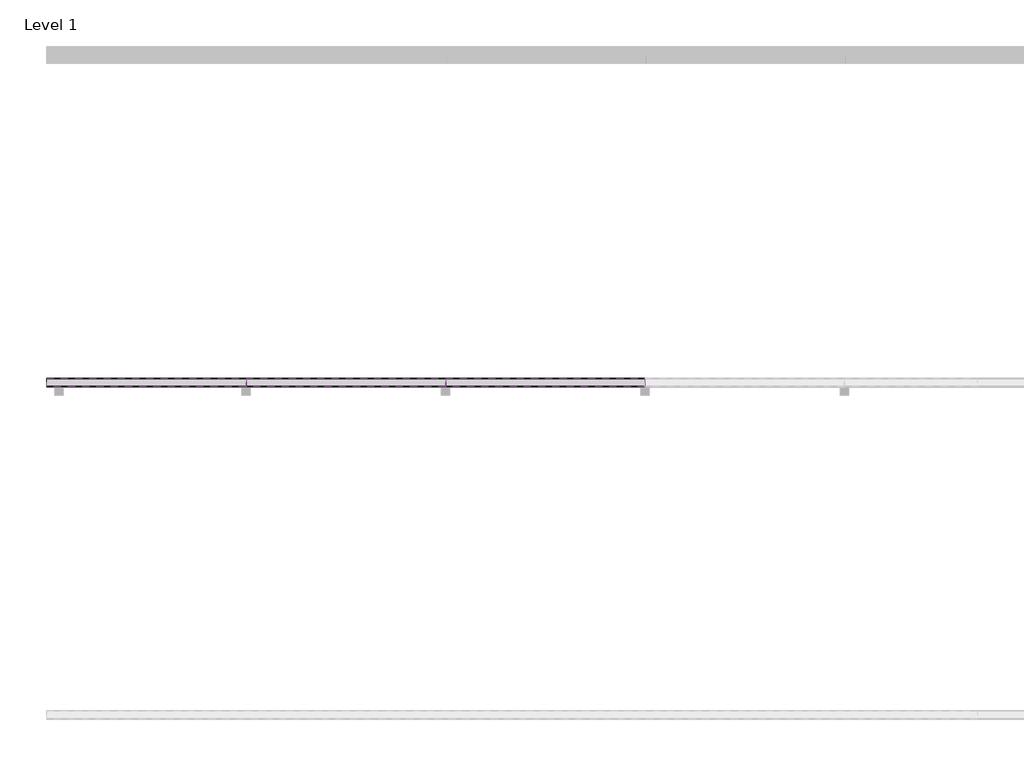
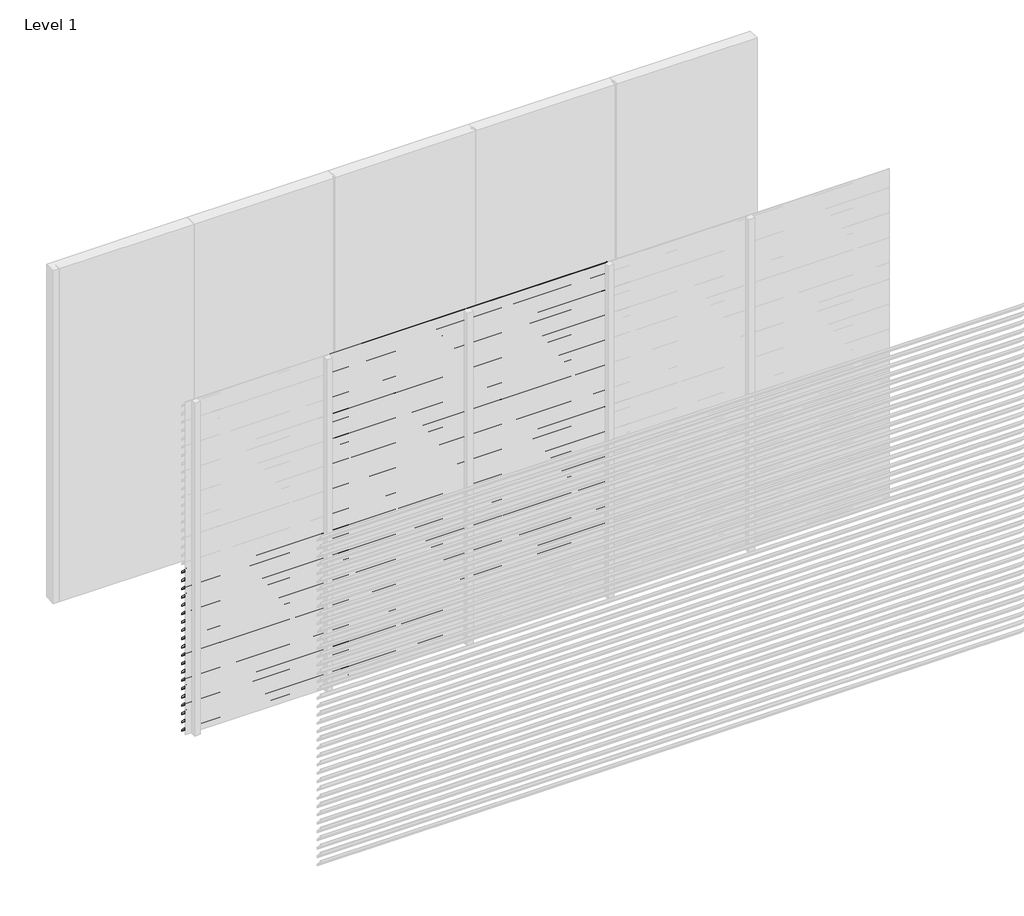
# One storey, part 5 of 11: 93 proxies.
"""IFC4 building model written with IfcOpenShell, lengths in millimetres."""

import ifcopenshell
import ifcopenshell.guid

model = None  # the IFC model being written
_history = None  # IfcOwnerHistory: only IFC2X3 demands one
_inside = {}  # id of a spatial element -> (the spatial element, [elements in it])
_under = {}  # id of a project, library or spatial element -> (it, [spatial elements below it])
_declared = {}  # id of a project -> (the project, [libraries it declares])
_typed = {}  # id of a type object -> (the type object, [elements of that type])
_made_of = {}  # id of a material, layer set ... -> (it, [elements and type objects made of it])


def new_model(schema):
    """Start an empty IFC model of exactly this schema.

    Asked for "IFC4X3", IfcOpenShell would pick the latest addendum, in which some entities
    have other attributes; the version numbers below select the first issue.
    IFC2X3 requires an IfcOwnerHistory on every rooted entity: one is made here for all.
    """
    global model, _history
    if schema == "IFC4X3":
        model = ifcopenshell.file(schema_version=(4, 3, 0, 0))
    else:
        model = ifcopenshell.file(schema=schema)
    _inside.clear()
    _under.clear()
    _declared.clear()
    _typed.clear()
    _made_of.clear()
    _history = None
    if model.schema == "IFC2X3":
        org = make("IfcOrganization", Name="unknown")
        user = make(
            "IfcPersonAndOrganization",
            ThePerson=make("IfcPerson", FamilyName="unknown"),
            TheOrganization=org,
        )
        app = make(
            "IfcApplication",
            ApplicationDeveloper=org,
            Version="unknown",
            ApplicationFullName="unknown",
            ApplicationIdentifier="unknown",
        )
        _history = make(
            "IfcOwnerHistory",
            OwningUser=user,
            OwningApplication=app,
            ChangeAction="ADDED",
            CreationDate=0,
        )
    return model


def make(cls, **values):
    """One entity of the class cls with the attributes given. An attribute that is None is left unset."""
    return model.create_entity(
        cls, **{name: value for name, value in values.items() if value is not None}
    )


def rooted(cls, **values):
    """An entity with a GlobalId (a new one), such as an element, a storey or a relation."""
    return make(cls, GlobalId=ifcopenshell.guid.new(), OwnerHistory=_history, **values)


def si_unit(unit_type, name, prefix=None):
    """IfcSIUnit, for example si_unit("LENGTHUNIT", "METRE", prefix="MILLI")."""
    return make("IfcSIUnit", UnitType=unit_type, Prefix=prefix, Name=name)


def assignment(units):
    """IfcUnitAssignment: the units of a project."""
    return None if units is None else make("IfcUnitAssignment", Units=units)


def point(xyz):
    """IfcCartesianPoint."""
    return None if xyz is None else make("IfcCartesianPoint", Coordinates=xyz)


def direction(xyz):
    """IfcDirection."""
    return None if xyz is None else make("IfcDirection", DirectionRatios=xyz)


def frame(location, z_axis=None, x_axis=None):
    """IfcAxis2Placement3D, a coordinate frame: its origin and axes. An axis left out is left unset."""
    return make(
        "IfcAxis2Placement3D",
        Location=point(location),
        Axis=direction(z_axis),
        RefDirection=direction(x_axis),
    )


def origin():
    """The frame at (0, 0, 0) with its axes left unset."""
    return frame((0.0, 0.0, 0.0))


def place(relative_to, where):
    """IfcLocalPlacement: puts the frame where relative to a parent placement (None: the world)."""
    return make(
        "IfcLocalPlacement", PlacementRelTo=relative_to, RelativePlacement=where
    )


def context(
    kind, dimensions, precision=None, world=None, true_north=None, identifier=None
):
    """IfcGeometricRepresentationContext, for example the 3D "Model" context."""
    return make(
        "IfcGeometricRepresentationContext",
        ContextIdentifier=identifier,
        ContextType=kind,
        CoordinateSpaceDimension=dimensions,
        Precision=precision,
        WorldCoordinateSystem=world,
        TrueNorth=true_north,
    )


def project(units=None, contexts=None):
    """IfcProject with its units and contexts."""
    return rooted(
        "IfcProject",
        Name="project",
        RepresentationContexts=contexts,
        UnitsInContext=assignment(units),
    )


def spatial(cls, under=None, at=None, **own):
    """A site, building, storey or space (cls), placed at a placement, below another one or the project."""
    s = rooted(cls, ObjectPlacement=at, **own)
    if under is not None:
        _under.setdefault(under.id(), (under, []))[1].append(s)
    return s


def polyline(points):
    """IfcPolyline through the points."""
    return make("IfcPolyline", Points=[point(p) for p in points])


def outline(outer, holes=None, kind="AREA"):
    """IfcArbitraryClosedProfileDef: a profile drawn as a closed curve; with holes, ...WithVoids."""
    if holes is None:
        return make("IfcArbitraryClosedProfileDef", ProfileType=kind, OuterCurve=outer)
    return make(
        "IfcArbitraryProfileDefWithVoids",
        ProfileType=kind,
        OuterCurve=outer,
        InnerCurves=holes,
    )


def extrude(swept, where, along, depth):
    """IfcExtrudedAreaSolid: the profile swept, set in the frame where, extruded along a direction by depth."""
    return make(
        "IfcExtrudedAreaSolid",
        SweptArea=swept,
        Position=where,
        ExtrudedDirection=direction(along),
        Depth=depth,
    )


def shape(context_of_items, identifier, shape_type, items):
    """IfcShapeRepresentation: the items that make up one representation, for example the "Body"."""
    return make(
        "IfcShapeRepresentation",
        ContextOfItems=context_of_items,
        RepresentationIdentifier=identifier,
        RepresentationType=shape_type,
        Items=items,
    )


def made_of(thing, what):
    """Note that an element or type object is made of a material, layer set ...; save() writes the relation."""
    if what is not None:
        _made_of.setdefault(what.id(), (what, []))[1].append(thing)
    return thing


def element(
    cls,
    number,
    at=None,
    inside=None,
    cuts=None,
    type_object=None,
    material=None,
    context=None,
    identifier="Body",
    shape_type=None,
    held_by="IfcProductDefinitionShape",
    body=None,
    shapes=None,
    **own,
):
    """One element of the class cls, such as IfcWall. Its Tag is "e" and its number.

    at: its placement. inside: the storey or other place that contains it. cuts: it is an
    opening in that element (IfcRelVoidsElement). A single representation is given by context,
    identifier, shape_type and body (its items); several are given by shapes. held_by: the class
    of the entity that holds the representations. save() writes the other relations.
    """
    e = rooted(cls, Tag="e%d" % number, ObjectPlacement=at, **own)
    if body is not None:
        shapes = [shape(context, identifier, shape_type, body)]
    if shapes is not None:
        e.Representation = make(held_by, Representations=shapes)
    if inside is not None:
        _inside.setdefault(inside.id(), (inside, []))[1].append(e)
    if cuts is not None:
        rooted(
            "IfcRelVoidsElement", RelatingBuildingElement=cuts, RelatedOpeningElement=e
        )
    if type_object is not None:
        _typed.setdefault(type_object.id(), (type_object, []))[1].append(e)
    return made_of(e, material)


def aggregate(whole, parts):
    """IfcRelAggregates: a whole, such as a stair, and the parts it consists of."""
    return rooted("IfcRelAggregates", RelatingObject=whole, RelatedObjects=parts)


def save(model, path):
    """Write the relations noted so far, then the file.

    IfcRelAggregates (storeys below a building ...), IfcRelContainedInSpatialStructure (elements
    in a storey), IfcRelDefinesByType, IfcRelAssociatesMaterial and IfcRelDeclares: one each for
    every whole, place, type object, material and project.
    """
    for whole, parts in _under.values():
        aggregate(whole, parts)
    for where, things in _inside.values():
        rooted(
            "IfcRelContainedInSpatialStructure",
            RelatedElements=things,
            RelatingStructure=where,
        )
    for kind, things in _typed.values():
        rooted("IfcRelDefinesByType", RelatedObjects=things, RelatingType=kind)
    for what, things in _made_of.values():
        rooted("IfcRelAssociatesMaterial", RelatedObjects=things, RelatingMaterial=what)
    for by, libraries in _declared.values():
        rooted("IfcRelDeclares", RelatingContext=by, RelatedDefinitions=libraries)
    model.write(path)


model = new_model("IFC4")

# Units and contexts
model_context = context("Model", 3, world=origin())
ifc_project = project(units=[si_unit("LENGTHUNIT", "METRE", prefix="MILLI")], contexts=[model_context])

# Site, building, storey
site = spatial("IfcSite", under=ifc_project)
building = spatial("IfcBuilding", under=site)
storey = spatial("IfcBuildingStorey", under=building, Name="Level 1", Elevation=0.0)

# Proxies
placement = place(None, origin())
element("IfcBuildingElementProxy", 1, Name="Wall Sweeps", at=placement, inside=storey, context=model_context, shape_type="SweptSolid", body=[
    extrude(outline(polyline([(-11995.0, 1500.0), (-11995.0, 1490.7409854), (-11946.0, 1440.0), (-11946.0, 1424.0), (-11997.0, 1476.812046), (-11997.0, 1500.0), (-11995.0, 1500.0)])), frame((0.0, 0.0, 0.0), z_axis=(1.0, 0.0, 0.0), x_axis=(0.0, 1.0, 0.0)), (0.0, 0.0, 1.0), 1200.0),
])
element("IfcBuildingElementProxy", 2, Name="Wall Sweeps", at=placement, inside=storey, context=model_context, shape_type="SweptSolid", body=[
    extrude(outline(polyline([(-11995.0, 1425.0), (-11995.0, 1415.7409854), (-11946.0, 1365.0), (-11946.0, 1349.0), (-11997.0, 1401.812046), (-11997.0, 1425.0), (-11995.0, 1425.0)])), frame((0.0, 0.0, 0.0), z_axis=(1.0, 0.0, 0.0), x_axis=(0.0, 1.0, 0.0)), (0.0, 0.0, 1.0), 1200.0),
])
element("IfcBuildingElementProxy", 3, Name="Wall Sweeps", at=placement, inside=storey, context=model_context, shape_type="SweptSolid", body=[
    extrude(outline(polyline([(-11995.0, 1350.0), (-11995.0, 1340.7409854), (-11946.0, 1290.0), (-11946.0, 1274.0), (-11997.0, 1326.812046), (-11997.0, 1350.0), (-11995.0, 1350.0)])), frame((0.0, 0.0, 0.0), z_axis=(1.0, 0.0, 0.0), x_axis=(0.0, 1.0, 0.0)), (0.0, 0.0, 1.0), 1200.0),
])
element("IfcBuildingElementProxy", 4, Name="Wall Sweeps", at=placement, inside=storey, context=model_context, shape_type="SweptSolid", body=[
    extrude(outline(polyline([(-11995.0, 1275.0), (-11995.0, 1265.7409854), (-11946.0, 1215.0), (-11946.0, 1199.0), (-11997.0, 1251.812046), (-11997.0, 1275.0), (-11995.0, 1275.0)])), frame((0.0, 0.0, 0.0), z_axis=(1.0, 0.0, 0.0), x_axis=(0.0, 1.0, 0.0)), (0.0, 0.0, 1.0), 1200.0),
])
element("IfcBuildingElementProxy", 5, Name="Wall Sweeps", at=placement, inside=storey, context=model_context, shape_type="SweptSolid", body=[
    extrude(outline(polyline([(-11995.0, 1200.0), (-11995.0, 1190.7409854), (-11946.0, 1140.0), (-11946.0, 1124.0), (-11997.0, 1176.812046), (-11997.0, 1200.0), (-11995.0, 1200.0)])), frame((0.0, 0.0, 0.0), z_axis=(1.0, 0.0, 0.0), x_axis=(0.0, 1.0, 0.0)), (0.0, 0.0, 1.0), 1200.0),
])
element("IfcBuildingElementProxy", 6, Name="Wall Sweeps", at=placement, inside=storey, context=model_context, shape_type="SweptSolid", body=[
    extrude(outline(polyline([(-11995.0, 1125.0), (-11995.0, 1115.7409854), (-11946.0, 1065.0), (-11946.0, 1049.0), (-11997.0, 1101.812046), (-11997.0, 1125.0), (-11995.0, 1125.0)])), frame((0.0, 0.0, 0.0), z_axis=(1.0, 0.0, 0.0), x_axis=(0.0, 1.0, 0.0)), (0.0, 0.0, 1.0), 1200.0),
])
element("IfcBuildingElementProxy", 7, Name="Wall Sweeps", at=placement, inside=storey, context=model_context, shape_type="SweptSolid", body=[
    extrude(outline(polyline([(-11995.0, 1050.0), (-11995.0, 1040.7409854), (-11946.0, 990.0), (-11946.0, 974.0), (-11997.0, 1026.812046), (-11997.0, 1050.0), (-11995.0, 1050.0)])), frame((0.0, 0.0, 0.0), z_axis=(1.0, 0.0, 0.0), x_axis=(0.0, 1.0, 0.0)), (0.0, 0.0, 1.0), 1200.0),
])
element("IfcBuildingElementProxy", 8, Name="Wall Sweeps", at=placement, inside=storey, context=model_context, shape_type="SweptSolid", body=[
    extrude(outline(polyline([(-11995.0, 975.0), (-11995.0, 965.7409854), (-11946.0, 915.0), (-11946.0, 899.0), (-11997.0, 951.812046), (-11997.0, 975.0), (-11995.0, 975.0)])), frame((0.0, 0.0, 0.0), z_axis=(1.0, 0.0, 0.0), x_axis=(0.0, 1.0, 0.0)), (0.0, 0.0, 1.0), 1200.0),
])
element("IfcBuildingElementProxy", 9, Name="Wall Sweeps", at=placement, inside=storey, context=model_context, shape_type="SweptSolid", body=[
    extrude(outline(polyline([(-11995.0, 900.0), (-11995.0, 890.7409854), (-11946.0, 840.0), (-11946.0, 824.0), (-11997.0, 876.812046), (-11997.0, 900.0), (-11995.0, 900.0)])), frame((0.0, 0.0, 0.0), z_axis=(1.0, 0.0, 0.0), x_axis=(0.0, 1.0, 0.0)), (0.0, 0.0, 1.0), 1200.0),
])
element("IfcBuildingElementProxy", 10, Name="Wall Sweeps", at=placement, inside=storey, context=model_context, shape_type="SweptSolid", body=[
    extrude(outline(polyline([(-11995.0, 825.0), (-11995.0, 815.7409854), (-11946.0, 765.0), (-11946.0, 749.0), (-11997.0, 801.812046), (-11997.0, 825.0), (-11995.0, 825.0)])), frame((0.0, 0.0, 0.0), z_axis=(1.0, 0.0, 0.0), x_axis=(0.0, 1.0, 0.0)), (0.0, 0.0, 1.0), 1200.0),
])
element("IfcBuildingElementProxy", 11, Name="Wall Sweeps", at=placement, inside=storey, context=model_context, shape_type="SweptSolid", body=[
    extrude(outline(polyline([(-11995.0, 750.0), (-11995.0, 740.7409854), (-11946.0, 690.0), (-11946.0, 674.0), (-11997.0, 726.812046), (-11997.0, 750.0), (-11995.0, 750.0)])), frame((0.0, 0.0, 0.0), z_axis=(1.0, 0.0, 0.0), x_axis=(0.0, 1.0, 0.0)), (0.0, 0.0, 1.0), 1200.0),
])
element("IfcBuildingElementProxy", 12, Name="Wall Sweeps", at=placement, inside=storey, context=model_context, shape_type="SweptSolid", body=[
    extrude(outline(polyline([(-11995.0, 675.0), (-11995.0, 665.7409854), (-11946.0, 615.0), (-11946.0, 599.0), (-11997.0, 651.812046), (-11997.0, 675.0), (-11995.0, 675.0)])), frame((0.0, 0.0, 0.0), z_axis=(1.0, 0.0, 0.0), x_axis=(0.0, 1.0, 0.0)), (0.0, 0.0, 1.0), 1200.0),
])
element("IfcBuildingElementProxy", 13, Name="Wall Sweeps", at=placement, inside=storey, context=model_context, shape_type="SweptSolid", body=[
    extrude(outline(polyline([(-11995.0, 600.0), (-11995.0, 590.7409854), (-11946.0, 540.0), (-11946.0, 524.0), (-11997.0, 576.812046), (-11997.0, 600.0), (-11995.0, 600.0)])), frame((0.0, 0.0, 0.0), z_axis=(1.0, 0.0, 0.0), x_axis=(0.0, 1.0, 0.0)), (0.0, 0.0, 1.0), 1200.0),
])
element("IfcBuildingElementProxy", 14, Name="Wall Sweeps", at=placement, inside=storey, context=model_context, shape_type="SweptSolid", body=[
    extrude(outline(polyline([(-11995.0, 525.0), (-11995.0, 515.7409854), (-11946.0, 465.0), (-11946.0, 449.0), (-11997.0, 501.812046), (-11997.0, 525.0), (-11995.0, 525.0)])), frame((0.0, 0.0, 0.0), z_axis=(1.0, 0.0, 0.0), x_axis=(0.0, 1.0, 0.0)), (0.0, 0.0, 1.0), 1200.0),
])
element("IfcBuildingElementProxy", 15, Name="Wall Sweeps", at=placement, inside=storey, context=model_context, shape_type="SweptSolid", body=[
    extrude(outline(polyline([(-11995.0, 450.0), (-11995.0, 440.7409854), (-11946.0, 390.0), (-11946.0, 374.0), (-11997.0, 426.812046), (-11997.0, 450.0), (-11995.0, 450.0)])), frame((0.0, 0.0, 0.0), z_axis=(1.0, 0.0, 0.0), x_axis=(0.0, 1.0, 0.0)), (0.0, 0.0, 1.0), 1200.0),
])
element("IfcBuildingElementProxy", 16, Name="Wall Sweeps", at=placement, inside=storey, context=model_context, shape_type="SweptSolid", body=[
    extrude(outline(polyline([(-11995.0, 375.0), (-11995.0, 365.7409854), (-11946.0, 315.0), (-11946.0, 299.0), (-11997.0, 351.812046), (-11997.0, 375.0), (-11995.0, 375.0)])), frame((0.0, 0.0, 0.0), z_axis=(1.0, 0.0, 0.0), x_axis=(0.0, 1.0, 0.0)), (0.0, 0.0, 1.0), 1200.0),
])
element("IfcBuildingElementProxy", 17, Name="Wall Sweeps", at=placement, inside=storey, context=model_context, shape_type="SweptSolid", body=[
    extrude(outline(polyline([(-11995.0, 300.0), (-11995.0, 290.7409854), (-11946.0, 240.0), (-11946.0, 224.0), (-11997.0, 276.812046), (-11997.0, 300.0), (-11995.0, 300.0)])), frame((0.0, 0.0, 0.0), z_axis=(1.0, 0.0, 0.0), x_axis=(0.0, 1.0, 0.0)), (0.0, 0.0, 1.0), 1200.0),
])
element("IfcBuildingElementProxy", 18, Name="Wall Sweeps", at=placement, inside=storey, context=model_context, shape_type="SweptSolid", body=[
    extrude(outline(polyline([(-11995.0, 225.0), (-11995.0, 215.7409854), (-11946.0, 165.0), (-11946.0, 149.0), (-11997.0, 201.812046), (-11997.0, 225.0), (-11995.0, 225.0)])), frame((0.0, 0.0, 0.0), z_axis=(1.0, 0.0, 0.0), x_axis=(0.0, 1.0, 0.0)), (0.0, 0.0, 1.0), 1200.0),
])
element("IfcBuildingElementProxy", 19, Name="Wall Sweeps", at=placement, inside=storey, context=model_context, shape_type="SweptSolid", body=[
    extrude(outline(polyline([(-11995.0, 150.0), (-11995.0, 140.7409854), (-11946.0, 90.0), (-11946.0, 74.0), (-11997.0, 126.812046), (-11997.0, 150.0), (-11995.0, 150.0)])), frame((0.0, 0.0, 0.0), z_axis=(1.0, 0.0, 0.0), x_axis=(0.0, 1.0, 0.0)), (0.0, 0.0, 1.0), 1200.0),
])
element("IfcBuildingElementProxy", 20, Name="Wall Sweeps", at=placement, inside=storey, context=model_context, shape_type="SweptSolid", body=[
    extrude(outline(polyline([(-11995.0, 75.0), (-11995.0, 65.7409854), (-11946.0, 15.0), (-11946.0, -1.0), (-11997.0, 51.812046), (-11997.0, 75.0), (-11995.0, 75.0)])), frame((0.0, 0.0, 0.0), z_axis=(1.0, 0.0, 0.0), x_axis=(0.0, 1.0, 0.0)), (0.0, 0.0, 1.0), 1200.0),
])
element("IfcBuildingElementProxy", 21, Name="Wall Sweeps", at=placement, inside=storey, context=model_context, shape_type="SweptSolid", body=[
    extrude(outline(polyline([(-11995.0, 3000.0), (-11995.0, 2990.7409854), (-11946.0, 2940.0), (-11946.0, 2924.0), (-11997.0, 2976.812046), (-11997.0, 3000.0), (-11995.0, 3000.0)])), frame((1200.0, 0.0, 0.0), z_axis=(1.0, 0.0, 0.0), x_axis=(0.0, 1.0, 0.0)), (0.0, 0.0, 1.0), 1200.0),
])
element("IfcBuildingElementProxy", 22, Name="Wall Sweeps", at=placement, inside=storey, context=model_context, shape_type="SweptSolid", body=[
    extrude(outline(polyline([(-11995.0, 2925.0), (-11995.0, 2915.7409854), (-11946.0, 2865.0), (-11946.0, 2849.0), (-11997.0, 2901.812046), (-11997.0, 2925.0), (-11995.0, 2925.0)])), frame((1200.0, 0.0, 0.0), z_axis=(1.0, 0.0, 0.0), x_axis=(0.0, 1.0, 0.0)), (0.0, 0.0, 1.0), 1200.0),
])
element("IfcBuildingElementProxy", 23, Name="Wall Sweeps", at=placement, inside=storey, context=model_context, shape_type="SweptSolid", body=[
    extrude(outline(polyline([(-11995.0, 2850.0), (-11995.0, 2840.7409854), (-11946.0, 2790.0), (-11946.0, 2774.0), (-11997.0, 2826.812046), (-11997.0, 2850.0), (-11995.0, 2850.0)])), frame((1200.0, 0.0, 0.0), z_axis=(1.0, 0.0, 0.0), x_axis=(0.0, 1.0, 0.0)), (0.0, 0.0, 1.0), 1200.0),
])
element("IfcBuildingElementProxy", 24, Name="Wall Sweeps", at=placement, inside=storey, context=model_context, shape_type="SweptSolid", body=[
    extrude(outline(polyline([(-11995.0, 2775.0), (-11995.0, 2765.7409854), (-11946.0, 2715.0), (-11946.0, 2699.0), (-11997.0, 2751.812046), (-11997.0, 2775.0), (-11995.0, 2775.0)])), frame((1200.0, 0.0, 0.0), z_axis=(1.0, 0.0, 0.0), x_axis=(0.0, 1.0, 0.0)), (0.0, 0.0, 1.0), 1200.0),
])
element("IfcBuildingElementProxy", 25, Name="Wall Sweeps", at=placement, inside=storey, context=model_context, shape_type="SweptSolid", body=[
    extrude(outline(polyline([(-11995.0, 2700.0), (-11995.0, 2690.7409854), (-11946.0, 2640.0), (-11946.0, 2624.0), (-11997.0, 2676.812046), (-11997.0, 2700.0), (-11995.0, 2700.0)])), frame((1200.0, 0.0, 0.0), z_axis=(1.0, 0.0, 0.0), x_axis=(0.0, 1.0, 0.0)), (0.0, 0.0, 1.0), 1200.0),
])
element("IfcBuildingElementProxy", 26, Name="Wall Sweeps", at=placement, inside=storey, context=model_context, shape_type="SweptSolid", body=[
    extrude(outline(polyline([(-11995.0, 2625.0), (-11995.0, 2615.7409854), (-11946.0, 2565.0), (-11946.0, 2549.0), (-11997.0, 2601.812046), (-11997.0, 2625.0), (-11995.0, 2625.0)])), frame((1200.0, 0.0, 0.0), z_axis=(1.0, 0.0, 0.0), x_axis=(0.0, 1.0, 0.0)), (0.0, 0.0, 1.0), 1200.0),
])
element("IfcBuildingElementProxy", 27, Name="Wall Sweeps", at=placement, inside=storey, context=model_context, shape_type="SweptSolid", body=[
    extrude(outline(polyline([(-11995.0, 2550.0), (-11995.0, 2540.7409854), (-11946.0, 2490.0), (-11946.0, 2474.0), (-11997.0, 2526.812046), (-11997.0, 2550.0), (-11995.0, 2550.0)])), frame((1200.0, 0.0, 0.0), z_axis=(1.0, 0.0, 0.0), x_axis=(0.0, 1.0, 0.0)), (0.0, 0.0, 1.0), 1200.0),
])
element("IfcBuildingElementProxy", 28, Name="Wall Sweeps", at=placement, inside=storey, context=model_context, shape_type="SweptSolid", body=[
    extrude(outline(polyline([(-11995.0, 2475.0), (-11995.0, 2465.7409854), (-11946.0, 2415.0), (-11946.0, 2399.0), (-11997.0, 2451.812046), (-11997.0, 2475.0), (-11995.0, 2475.0)])), frame((1200.0, 0.0, 0.0), z_axis=(1.0, 0.0, 0.0), x_axis=(0.0, 1.0, 0.0)), (0.0, 0.0, 1.0), 1200.0),
])
element("IfcBuildingElementProxy", 29, Name="Wall Sweeps", at=placement, inside=storey, context=model_context, shape_type="SweptSolid", body=[
    extrude(outline(polyline([(-11995.0, 2400.0), (-11995.0, 2390.7409854), (-11946.0, 2340.0), (-11946.0, 2324.0), (-11997.0, 2376.812046), (-11997.0, 2400.0), (-11995.0, 2400.0)])), frame((1200.0, 0.0, 0.0), z_axis=(1.0, 0.0, 0.0), x_axis=(0.0, 1.0, 0.0)), (0.0, 0.0, 1.0), 1200.0),
])
element("IfcBuildingElementProxy", 30, Name="Wall Sweeps", at=placement, inside=storey, context=model_context, shape_type="SweptSolid", body=[
    extrude(outline(polyline([(-11995.0, 2325.0), (-11995.0, 2315.7409854), (-11946.0, 2265.0), (-11946.0, 2249.0), (-11997.0, 2301.812046), (-11997.0, 2325.0), (-11995.0, 2325.0)])), frame((1200.0, 0.0, 0.0), z_axis=(1.0, 0.0, 0.0), x_axis=(0.0, 1.0, 0.0)), (0.0, 0.0, 1.0), 1200.0),
])
element("IfcBuildingElementProxy", 31, Name="Wall Sweeps", at=placement, inside=storey, context=model_context, shape_type="SweptSolid", body=[
    extrude(outline(polyline([(-11995.0, 2250.0), (-11995.0, 2240.7409854), (-11946.0, 2190.0), (-11946.0, 2174.0), (-11997.0, 2226.812046), (-11997.0, 2250.0), (-11995.0, 2250.0)])), frame((1200.0, 0.0, 0.0), z_axis=(1.0, 0.0, 0.0), x_axis=(0.0, 1.0, 0.0)), (0.0, 0.0, 1.0), 1200.0),
])
element("IfcBuildingElementProxy", 32, Name="Wall Sweeps", at=placement, inside=storey, context=model_context, shape_type="SweptSolid", body=[
    extrude(outline(polyline([(-11995.0, 2175.0), (-11995.0, 2165.7409854), (-11946.0, 2115.0), (-11946.0, 2099.0), (-11997.0, 2151.812046), (-11997.0, 2175.0), (-11995.0, 2175.0)])), frame((1200.0, 0.0, 0.0), z_axis=(1.0, 0.0, 0.0), x_axis=(0.0, 1.0, 0.0)), (0.0, 0.0, 1.0), 1200.0),
])
element("IfcBuildingElementProxy", 33, Name="Wall Sweeps", at=placement, inside=storey, context=model_context, shape_type="SweptSolid", body=[
    extrude(outline(polyline([(-11995.0, 2100.0), (-11995.0, 2090.7409854), (-11946.0, 2040.0), (-11946.0, 2024.0), (-11997.0, 2076.812046), (-11997.0, 2100.0), (-11995.0, 2100.0)])), frame((1200.0, 0.0, 0.0), z_axis=(1.0, 0.0, 0.0), x_axis=(0.0, 1.0, 0.0)), (0.0, 0.0, 1.0), 1200.0),
])
element("IfcBuildingElementProxy", 34, Name="Wall Sweeps", at=placement, inside=storey, context=model_context, shape_type="SweptSolid", body=[
    extrude(outline(polyline([(-11995.0, 2025.0), (-11995.0, 2015.7409854), (-11946.0, 1965.0), (-11946.0, 1949.0), (-11997.0, 2001.812046), (-11997.0, 2025.0), (-11995.0, 2025.0)])), frame((1200.0, 0.0, 0.0), z_axis=(1.0, 0.0, 0.0), x_axis=(0.0, 1.0, 0.0)), (0.0, 0.0, 1.0), 1200.0),
])
element("IfcBuildingElementProxy", 35, Name="Wall Sweeps", at=placement, inside=storey, context=model_context, shape_type="SweptSolid", body=[
    extrude(outline(polyline([(-11995.0, 1950.0), (-11995.0, 1940.7409854), (-11946.0, 1890.0), (-11946.0, 1874.0), (-11997.0, 1926.812046), (-11997.0, 1950.0), (-11995.0, 1950.0)])), frame((1200.0, 0.0, 0.0), z_axis=(1.0, 0.0, 0.0), x_axis=(0.0, 1.0, 0.0)), (0.0, 0.0, 1.0), 1200.0),
])
element("IfcBuildingElementProxy", 36, Name="Wall Sweeps", at=placement, inside=storey, context=model_context, shape_type="SweptSolid", body=[
    extrude(outline(polyline([(-11995.0, 1875.0), (-11995.0, 1865.7409854), (-11946.0, 1815.0), (-11946.0, 1799.0), (-11997.0, 1851.812046), (-11997.0, 1875.0), (-11995.0, 1875.0)])), frame((1200.0, 0.0, 0.0), z_axis=(1.0, 0.0, 0.0), x_axis=(0.0, 1.0, 0.0)), (0.0, 0.0, 1.0), 1200.0),
])
element("IfcBuildingElementProxy", 37, Name="Wall Sweeps", at=placement, inside=storey, context=model_context, shape_type="SweptSolid", body=[
    extrude(outline(polyline([(-11995.0, 1800.0), (-11995.0, 1790.7409854), (-11946.0, 1740.0), (-11946.0, 1724.0), (-11997.0, 1776.812046), (-11997.0, 1800.0), (-11995.0, 1800.0)])), frame((1200.0, 0.0, 0.0), z_axis=(1.0, 0.0, 0.0), x_axis=(0.0, 1.0, 0.0)), (0.0, 0.0, 1.0), 1200.0),
])
element("IfcBuildingElementProxy", 38, Name="Wall Sweeps", at=placement, inside=storey, context=model_context, shape_type="SweptSolid", body=[
    extrude(outline(polyline([(-11995.0, 1725.0), (-11995.0, 1715.7409854), (-11946.0, 1665.0), (-11946.0, 1649.0), (-11997.0, 1701.812046), (-11997.0, 1725.0), (-11995.0, 1725.0)])), frame((1200.0, 0.0, 0.0), z_axis=(1.0, 0.0, 0.0), x_axis=(0.0, 1.0, 0.0)), (0.0, 0.0, 1.0), 1200.0),
])
element("IfcBuildingElementProxy", 39, Name="Wall Sweeps", at=placement, inside=storey, context=model_context, shape_type="SweptSolid", body=[
    extrude(outline(polyline([(-11995.0, 1650.0), (-11995.0, 1640.7409854), (-11946.0, 1590.0), (-11946.0, 1574.0), (-11997.0, 1626.812046), (-11997.0, 1650.0), (-11995.0, 1650.0)])), frame((1200.0, 0.0, 0.0), z_axis=(1.0, 0.0, 0.0), x_axis=(0.0, 1.0, 0.0)), (0.0, 0.0, 1.0), 1200.0),
])
element("IfcBuildingElementProxy", 40, Name="Wall Sweeps", at=placement, inside=storey, context=model_context, shape_type="SweptSolid", body=[
    extrude(outline(polyline([(-11995.0, 1575.0), (-11995.0, 1565.7409854), (-11946.0, 1515.0), (-11946.0, 1499.0), (-11997.0, 1551.812046), (-11997.0, 1575.0), (-11995.0, 1575.0)])), frame((1200.0, 0.0, 0.0), z_axis=(1.0, 0.0, 0.0), x_axis=(0.0, 1.0, 0.0)), (0.0, 0.0, 1.0), 1200.0),
])
element("IfcBuildingElementProxy", 41, Name="Wall Sweeps", at=placement, inside=storey, context=model_context, shape_type="SweptSolid", body=[
    extrude(outline(polyline([(-11995.0, 1500.0), (-11995.0, 1490.7409854), (-11946.0, 1440.0), (-11946.0, 1424.0), (-11997.0, 1476.812046), (-11997.0, 1500.0), (-11995.0, 1500.0)])), frame((1200.0, 0.0, 0.0), z_axis=(1.0, 0.0, 0.0), x_axis=(0.0, 1.0, 0.0)), (0.0, 0.0, 1.0), 1200.0),
])
element("IfcBuildingElementProxy", 42, Name="Wall Sweeps", at=placement, inside=storey, context=model_context, shape_type="SweptSolid", body=[
    extrude(outline(polyline([(-11995.0, 1425.0), (-11995.0, 1415.7409854), (-11946.0, 1365.0), (-11946.0, 1349.0), (-11997.0, 1401.812046), (-11997.0, 1425.0), (-11995.0, 1425.0)])), frame((1200.0, 0.0, 0.0), z_axis=(1.0, 0.0, 0.0), x_axis=(0.0, 1.0, 0.0)), (0.0, 0.0, 1.0), 1200.0),
])
element("IfcBuildingElementProxy", 43, Name="Wall Sweeps", at=placement, inside=storey, context=model_context, shape_type="SweptSolid", body=[
    extrude(outline(polyline([(-11995.0, 1350.0), (-11995.0, 1340.7409854), (-11946.0, 1290.0), (-11946.0, 1274.0), (-11997.0, 1326.812046), (-11997.0, 1350.0), (-11995.0, 1350.0)])), frame((1200.0, 0.0, 0.0), z_axis=(1.0, 0.0, 0.0), x_axis=(0.0, 1.0, 0.0)), (0.0, 0.0, 1.0), 1200.0),
])
element("IfcBuildingElementProxy", 44, Name="Wall Sweeps", at=placement, inside=storey, context=model_context, shape_type="SweptSolid", body=[
    extrude(outline(polyline([(-11995.0, 1275.0), (-11995.0, 1265.7409854), (-11946.0, 1215.0), (-11946.0, 1199.0), (-11997.0, 1251.812046), (-11997.0, 1275.0), (-11995.0, 1275.0)])), frame((1200.0, 0.0, 0.0), z_axis=(1.0, 0.0, 0.0), x_axis=(0.0, 1.0, 0.0)), (0.0, 0.0, 1.0), 1200.0),
])
element("IfcBuildingElementProxy", 45, Name="Wall Sweeps", at=placement, inside=storey, context=model_context, shape_type="SweptSolid", body=[
    extrude(outline(polyline([(-11995.0, 1200.0), (-11995.0, 1190.7409854), (-11946.0, 1140.0), (-11946.0, 1124.0), (-11997.0, 1176.812046), (-11997.0, 1200.0), (-11995.0, 1200.0)])), frame((1200.0, 0.0, 0.0), z_axis=(1.0, 0.0, 0.0), x_axis=(0.0, 1.0, 0.0)), (0.0, 0.0, 1.0), 1200.0),
])
element("IfcBuildingElementProxy", 46, Name="Wall Sweeps", at=placement, inside=storey, context=model_context, shape_type="SweptSolid", body=[
    extrude(outline(polyline([(-11995.0, 1125.0), (-11995.0, 1115.7409854), (-11946.0, 1065.0), (-11946.0, 1049.0), (-11997.0, 1101.812046), (-11997.0, 1125.0), (-11995.0, 1125.0)])), frame((1200.0, 0.0, 0.0), z_axis=(1.0, 0.0, 0.0), x_axis=(0.0, 1.0, 0.0)), (0.0, 0.0, 1.0), 1200.0),
])
element("IfcBuildingElementProxy", 47, Name="Wall Sweeps", at=placement, inside=storey, context=model_context, shape_type="SweptSolid", body=[
    extrude(outline(polyline([(-11995.0, 1050.0), (-11995.0, 1040.7409854), (-11946.0, 990.0), (-11946.0, 974.0), (-11997.0, 1026.812046), (-11997.0, 1050.0), (-11995.0, 1050.0)])), frame((1200.0, 0.0, 0.0), z_axis=(1.0, 0.0, 0.0), x_axis=(0.0, 1.0, 0.0)), (0.0, 0.0, 1.0), 1200.0),
])
element("IfcBuildingElementProxy", 48, Name="Wall Sweeps", at=placement, inside=storey, context=model_context, shape_type="SweptSolid", body=[
    extrude(outline(polyline([(-11995.0, 975.0), (-11995.0, 965.7409854), (-11946.0, 915.0), (-11946.0, 899.0), (-11997.0, 951.812046), (-11997.0, 975.0), (-11995.0, 975.0)])), frame((1200.0, 0.0, 0.0), z_axis=(1.0, 0.0, 0.0), x_axis=(0.0, 1.0, 0.0)), (0.0, 0.0, 1.0), 1200.0),
])
element("IfcBuildingElementProxy", 49, Name="Wall Sweeps", at=placement, inside=storey, context=model_context, shape_type="SweptSolid", body=[
    extrude(outline(polyline([(-11995.0, 900.0), (-11995.0, 890.7409854), (-11946.0, 840.0), (-11946.0, 824.0), (-11997.0, 876.812046), (-11997.0, 900.0), (-11995.0, 900.0)])), frame((1200.0, 0.0, 0.0), z_axis=(1.0, 0.0, 0.0), x_axis=(0.0, 1.0, 0.0)), (0.0, 0.0, 1.0), 1200.0),
])
element("IfcBuildingElementProxy", 50, Name="Wall Sweeps", at=placement, inside=storey, context=model_context, shape_type="SweptSolid", body=[
    extrude(outline(polyline([(-11995.0, 825.0), (-11995.0, 815.7409854), (-11946.0, 765.0), (-11946.0, 749.0), (-11997.0, 801.812046), (-11997.0, 825.0), (-11995.0, 825.0)])), frame((1200.0, 0.0, 0.0), z_axis=(1.0, 0.0, 0.0), x_axis=(0.0, 1.0, 0.0)), (0.0, 0.0, 1.0), 1200.0),
])
element("IfcBuildingElementProxy", 51, Name="Wall Sweeps", at=placement, inside=storey, context=model_context, shape_type="SweptSolid", body=[
    extrude(outline(polyline([(-11995.0, 750.0), (-11995.0, 740.7409854), (-11946.0, 690.0), (-11946.0, 674.0), (-11997.0, 726.812046), (-11997.0, 750.0), (-11995.0, 750.0)])), frame((1200.0, 0.0, 0.0), z_axis=(1.0, 0.0, 0.0), x_axis=(0.0, 1.0, 0.0)), (0.0, 0.0, 1.0), 1200.0),
])
element("IfcBuildingElementProxy", 52, Name="Wall Sweeps", at=placement, inside=storey, context=model_context, shape_type="SweptSolid", body=[
    extrude(outline(polyline([(-11995.0, 675.0), (-11995.0, 665.7409854), (-11946.0, 615.0), (-11946.0, 599.0), (-11997.0, 651.812046), (-11997.0, 675.0), (-11995.0, 675.0)])), frame((1200.0, 0.0, 0.0), z_axis=(1.0, 0.0, 0.0), x_axis=(0.0, 1.0, 0.0)), (0.0, 0.0, 1.0), 1200.0),
])
element("IfcBuildingElementProxy", 53, Name="Wall Sweeps", at=placement, inside=storey, context=model_context, shape_type="SweptSolid", body=[
    extrude(outline(polyline([(-11995.0, 600.0), (-11995.0, 590.7409854), (-11946.0, 540.0), (-11946.0, 524.0), (-11997.0, 576.812046), (-11997.0, 600.0), (-11995.0, 600.0)])), frame((1200.0, 0.0, 0.0), z_axis=(1.0, 0.0, 0.0), x_axis=(0.0, 1.0, 0.0)), (0.0, 0.0, 1.0), 1200.0),
])
element("IfcBuildingElementProxy", 54, Name="Wall Sweeps", at=placement, inside=storey, context=model_context, shape_type="SweptSolid", body=[
    extrude(outline(polyline([(-11995.0, 525.0), (-11995.0, 515.7409854), (-11946.0, 465.0), (-11946.0, 449.0), (-11997.0, 501.812046), (-11997.0, 525.0), (-11995.0, 525.0)])), frame((1200.0, 0.0, 0.0), z_axis=(1.0, 0.0, 0.0), x_axis=(0.0, 1.0, 0.0)), (0.0, 0.0, 1.0), 1200.0),
])
element("IfcBuildingElementProxy", 55, Name="Wall Sweeps", at=placement, inside=storey, context=model_context, shape_type="SweptSolid", body=[
    extrude(outline(polyline([(-11995.0, 450.0), (-11995.0, 440.7409854), (-11946.0, 390.0), (-11946.0, 374.0), (-11997.0, 426.812046), (-11997.0, 450.0), (-11995.0, 450.0)])), frame((1200.0, 0.0, 0.0), z_axis=(1.0, 0.0, 0.0), x_axis=(0.0, 1.0, 0.0)), (0.0, 0.0, 1.0), 1200.0),
])
element("IfcBuildingElementProxy", 56, Name="Wall Sweeps", at=placement, inside=storey, context=model_context, shape_type="SweptSolid", body=[
    extrude(outline(polyline([(-11995.0, 375.0), (-11995.0, 365.7409854), (-11946.0, 315.0), (-11946.0, 299.0), (-11997.0, 351.812046), (-11997.0, 375.0), (-11995.0, 375.0)])), frame((1200.0, 0.0, 0.0), z_axis=(1.0, 0.0, 0.0), x_axis=(0.0, 1.0, 0.0)), (0.0, 0.0, 1.0), 1200.0),
])
element("IfcBuildingElementProxy", 57, Name="Wall Sweeps", at=placement, inside=storey, context=model_context, shape_type="SweptSolid", body=[
    extrude(outline(polyline([(-11995.0, 300.0), (-11995.0, 290.7409854), (-11946.0, 240.0), (-11946.0, 224.0), (-11997.0, 276.812046), (-11997.0, 300.0), (-11995.0, 300.0)])), frame((1200.0, 0.0, 0.0), z_axis=(1.0, 0.0, 0.0), x_axis=(0.0, 1.0, 0.0)), (0.0, 0.0, 1.0), 1200.0),
])
element("IfcBuildingElementProxy", 58, Name="Wall Sweeps", at=placement, inside=storey, context=model_context, shape_type="SweptSolid", body=[
    extrude(outline(polyline([(-11995.0, 225.0), (-11995.0, 215.7409854), (-11946.0, 165.0), (-11946.0, 149.0), (-11997.0, 201.812046), (-11997.0, 225.0), (-11995.0, 225.0)])), frame((1200.0, 0.0, 0.0), z_axis=(1.0, 0.0, 0.0), x_axis=(0.0, 1.0, 0.0)), (0.0, 0.0, 1.0), 1200.0),
])
element("IfcBuildingElementProxy", 59, Name="Wall Sweeps", at=placement, inside=storey, context=model_context, shape_type="SweptSolid", body=[
    extrude(outline(polyline([(-11995.0, 150.0), (-11995.0, 140.7409854), (-11946.0, 90.0), (-11946.0, 74.0), (-11997.0, 126.812046), (-11997.0, 150.0), (-11995.0, 150.0)])), frame((1200.0, 0.0, 0.0), z_axis=(1.0, 0.0, 0.0), x_axis=(0.0, 1.0, 0.0)), (0.0, 0.0, 1.0), 1200.0),
])
element("IfcBuildingElementProxy", 60, Name="Wall Sweeps", at=placement, inside=storey, context=model_context, shape_type="SweptSolid", body=[
    extrude(outline(polyline([(-11995.0, 75.0), (-11995.0, 65.7409854), (-11946.0, 15.0), (-11946.0, -1.0), (-11997.0, 51.812046), (-11997.0, 75.0), (-11995.0, 75.0)])), frame((1200.0, 0.0, 0.0), z_axis=(1.0, 0.0, 0.0), x_axis=(0.0, 1.0, 0.0)), (0.0, 0.0, 1.0), 1200.0),
])
element("IfcBuildingElementProxy", 61, Name="Wall Sweeps", at=placement, inside=storey, context=model_context, shape_type="SweptSolid", body=[
    extrude(outline(polyline([(-11995.0, 3000.0), (-11995.0, 2990.7409854), (-11946.0, 2940.0), (-11946.0, 2924.0), (-11997.0, 2976.812046), (-11997.0, 3000.0), (-11995.0, 3000.0)])), frame((2400.0, 0.0, 0.0), z_axis=(1.0, 0.0, 0.0), x_axis=(0.0, 1.0, 0.0)), (0.0, 0.0, 1.0), 1200.0),
])
element("IfcBuildingElementProxy", 62, Name="Wall Sweeps", at=placement, inside=storey, context=model_context, shape_type="SweptSolid", body=[
    extrude(outline(polyline([(-11995.0, 2925.0), (-11995.0, 2915.7409854), (-11946.0, 2865.0), (-11946.0, 2849.0), (-11997.0, 2901.812046), (-11997.0, 2925.0), (-11995.0, 2925.0)])), frame((2400.0, 0.0, 0.0), z_axis=(1.0, 0.0, 0.0), x_axis=(0.0, 1.0, 0.0)), (0.0, 0.0, 1.0), 1200.0),
])
element("IfcBuildingElementProxy", 63, Name="Wall Sweeps", at=placement, inside=storey, context=model_context, shape_type="SweptSolid", body=[
    extrude(outline(polyline([(-11995.0, 2850.0), (-11995.0, 2840.7409854), (-11946.0, 2790.0), (-11946.0, 2774.0), (-11997.0, 2826.812046), (-11997.0, 2850.0), (-11995.0, 2850.0)])), frame((2400.0, 0.0, 0.0), z_axis=(1.0, 0.0, 0.0), x_axis=(0.0, 1.0, 0.0)), (0.0, 0.0, 1.0), 1200.0),
])
element("IfcBuildingElementProxy", 64, Name="Wall Sweeps", at=placement, inside=storey, context=model_context, shape_type="SweptSolid", body=[
    extrude(outline(polyline([(-11995.0, 2775.0), (-11995.0, 2765.7409854), (-11946.0, 2715.0), (-11946.0, 2699.0), (-11997.0, 2751.812046), (-11997.0, 2775.0), (-11995.0, 2775.0)])), frame((2400.0, 0.0, 0.0), z_axis=(1.0, 0.0, 0.0), x_axis=(0.0, 1.0, 0.0)), (0.0, 0.0, 1.0), 1200.0),
])
element("IfcBuildingElementProxy", 65, Name="Wall Sweeps", at=placement, inside=storey, context=model_context, shape_type="SweptSolid", body=[
    extrude(outline(polyline([(-11995.0, 2700.0), (-11995.0, 2690.7409854), (-11946.0, 2640.0), (-11946.0, 2624.0), (-11997.0, 2676.812046), (-11997.0, 2700.0), (-11995.0, 2700.0)])), frame((2400.0, 0.0, 0.0), z_axis=(1.0, 0.0, 0.0), x_axis=(0.0, 1.0, 0.0)), (0.0, 0.0, 1.0), 1200.0),
])
element("IfcBuildingElementProxy", 66, Name="Wall Sweeps", at=placement, inside=storey, context=model_context, shape_type="SweptSolid", body=[
    extrude(outline(polyline([(-11995.0, 2625.0), (-11995.0, 2615.7409854), (-11946.0, 2565.0), (-11946.0, 2549.0), (-11997.0, 2601.812046), (-11997.0, 2625.0), (-11995.0, 2625.0)])), frame((2400.0, 0.0, 0.0), z_axis=(1.0, 0.0, 0.0), x_axis=(0.0, 1.0, 0.0)), (0.0, 0.0, 1.0), 1200.0),
])
element("IfcBuildingElementProxy", 67, Name="Wall Sweeps", at=placement, inside=storey, context=model_context, shape_type="SweptSolid", body=[
    extrude(outline(polyline([(-11995.0, 2550.0), (-11995.0, 2540.7409854), (-11946.0, 2490.0), (-11946.0, 2474.0), (-11997.0, 2526.812046), (-11997.0, 2550.0), (-11995.0, 2550.0)])), frame((2400.0, 0.0, 0.0), z_axis=(1.0, 0.0, 0.0), x_axis=(0.0, 1.0, 0.0)), (0.0, 0.0, 1.0), 1200.0),
])
element("IfcBuildingElementProxy", 68, Name="Wall Sweeps", at=placement, inside=storey, context=model_context, shape_type="SweptSolid", body=[
    extrude(outline(polyline([(-11995.0, 2475.0), (-11995.0, 2465.7409854), (-11946.0, 2415.0), (-11946.0, 2399.0), (-11997.0, 2451.812046), (-11997.0, 2475.0), (-11995.0, 2475.0)])), frame((2400.0, 0.0, 0.0), z_axis=(1.0, 0.0, 0.0), x_axis=(0.0, 1.0, 0.0)), (0.0, 0.0, 1.0), 1200.0),
])
element("IfcBuildingElementProxy", 69, Name="Wall Sweeps", at=placement, inside=storey, context=model_context, shape_type="SweptSolid", body=[
    extrude(outline(polyline([(-11995.0, 2400.0), (-11995.0, 2390.7409854), (-11946.0, 2340.0), (-11946.0, 2324.0), (-11997.0, 2376.812046), (-11997.0, 2400.0), (-11995.0, 2400.0)])), frame((2400.0, 0.0, 0.0), z_axis=(1.0, 0.0, 0.0), x_axis=(0.0, 1.0, 0.0)), (0.0, 0.0, 1.0), 1200.0),
])
element("IfcBuildingElementProxy", 70, Name="Wall Sweeps", at=placement, inside=storey, context=model_context, shape_type="SweptSolid", body=[
    extrude(outline(polyline([(-11995.0, 2325.0), (-11995.0, 2315.7409854), (-11946.0, 2265.0), (-11946.0, 2249.0), (-11997.0, 2301.812046), (-11997.0, 2325.0), (-11995.0, 2325.0)])), frame((2400.0, 0.0, 0.0), z_axis=(1.0, 0.0, 0.0), x_axis=(0.0, 1.0, 0.0)), (0.0, 0.0, 1.0), 1200.0),
])
element("IfcBuildingElementProxy", 71, Name="Wall Sweeps", at=placement, inside=storey, context=model_context, shape_type="SweptSolid", body=[
    extrude(outline(polyline([(-11995.0, 2250.0), (-11995.0, 2240.7409854), (-11946.0, 2190.0), (-11946.0, 2174.0), (-11997.0, 2226.812046), (-11997.0, 2250.0), (-11995.0, 2250.0)])), frame((2400.0, 0.0, 0.0), z_axis=(1.0, 0.0, 0.0), x_axis=(0.0, 1.0, 0.0)), (0.0, 0.0, 1.0), 1200.0),
])
element("IfcBuildingElementProxy", 72, Name="Wall Sweeps", at=placement, inside=storey, context=model_context, shape_type="SweptSolid", body=[
    extrude(outline(polyline([(-11995.0, 2175.0), (-11995.0, 2165.7409854), (-11946.0, 2115.0), (-11946.0, 2099.0), (-11997.0, 2151.812046), (-11997.0, 2175.0), (-11995.0, 2175.0)])), frame((2400.0, 0.0, 0.0), z_axis=(1.0, 0.0, 0.0), x_axis=(0.0, 1.0, 0.0)), (0.0, 0.0, 1.0), 1200.0),
])
element("IfcBuildingElementProxy", 73, Name="Wall Sweeps", at=placement, inside=storey, context=model_context, shape_type="SweptSolid", body=[
    extrude(outline(polyline([(-11995.0, 2100.0), (-11995.0, 2090.7409854), (-11946.0, 2040.0), (-11946.0, 2024.0), (-11997.0, 2076.812046), (-11997.0, 2100.0), (-11995.0, 2100.0)])), frame((2400.0, 0.0, 0.0), z_axis=(1.0, 0.0, 0.0), x_axis=(0.0, 1.0, 0.0)), (0.0, 0.0, 1.0), 1200.0),
])
element("IfcBuildingElementProxy", 74, Name="Wall Sweeps", at=placement, inside=storey, context=model_context, shape_type="SweptSolid", body=[
    extrude(outline(polyline([(-11995.0, 2025.0), (-11995.0, 2015.7409854), (-11946.0, 1965.0), (-11946.0, 1949.0), (-11997.0, 2001.812046), (-11997.0, 2025.0), (-11995.0, 2025.0)])), frame((2400.0, 0.0, 0.0), z_axis=(1.0, 0.0, 0.0), x_axis=(0.0, 1.0, 0.0)), (0.0, 0.0, 1.0), 1200.0),
])
element("IfcBuildingElementProxy", 75, Name="Wall Sweeps", at=placement, inside=storey, context=model_context, shape_type="SweptSolid", body=[
    extrude(outline(polyline([(-11995.0, 1950.0), (-11995.0, 1940.7409854), (-11946.0, 1890.0), (-11946.0, 1874.0), (-11997.0, 1926.812046), (-11997.0, 1950.0), (-11995.0, 1950.0)])), frame((2400.0, 0.0, 0.0), z_axis=(1.0, 0.0, 0.0), x_axis=(0.0, 1.0, 0.0)), (0.0, 0.0, 1.0), 1200.0),
])
element("IfcBuildingElementProxy", 76, Name="Wall Sweeps", at=placement, inside=storey, context=model_context, shape_type="SweptSolid", body=[
    extrude(outline(polyline([(-11995.0, 1875.0), (-11995.0, 1865.7409854), (-11946.0, 1815.0), (-11946.0, 1799.0), (-11997.0, 1851.812046), (-11997.0, 1875.0), (-11995.0, 1875.0)])), frame((2400.0, 0.0, 0.0), z_axis=(1.0, 0.0, 0.0), x_axis=(0.0, 1.0, 0.0)), (0.0, 0.0, 1.0), 1200.0),
])
element("IfcBuildingElementProxy", 77, Name="Wall Sweeps", at=placement, inside=storey, context=model_context, shape_type="SweptSolid", body=[
    extrude(outline(polyline([(-11995.0, 1800.0), (-11995.0, 1790.7409854), (-11946.0, 1740.0), (-11946.0, 1724.0), (-11997.0, 1776.812046), (-11997.0, 1800.0), (-11995.0, 1800.0)])), frame((2400.0, 0.0, 0.0), z_axis=(1.0, 0.0, 0.0), x_axis=(0.0, 1.0, 0.0)), (0.0, 0.0, 1.0), 1200.0),
])
element("IfcBuildingElementProxy", 78, Name="Wall Sweeps", at=placement, inside=storey, context=model_context, shape_type="SweptSolid", body=[
    extrude(outline(polyline([(-11995.0, 1725.0), (-11995.0, 1715.7409854), (-11946.0, 1665.0), (-11946.0, 1649.0), (-11997.0, 1701.812046), (-11997.0, 1725.0), (-11995.0, 1725.0)])), frame((2400.0, 0.0, 0.0), z_axis=(1.0, 0.0, 0.0), x_axis=(0.0, 1.0, 0.0)), (0.0, 0.0, 1.0), 1200.0),
])
element("IfcBuildingElementProxy", 79, Name="Wall Sweeps", at=placement, inside=storey, context=model_context, shape_type="SweptSolid", body=[
    extrude(outline(polyline([(-11995.0, 1650.0), (-11995.0, 1640.7409854), (-11946.0, 1590.0), (-11946.0, 1574.0), (-11997.0, 1626.812046), (-11997.0, 1650.0), (-11995.0, 1650.0)])), frame((2400.0, 0.0, 0.0), z_axis=(1.0, 0.0, 0.0), x_axis=(0.0, 1.0, 0.0)), (0.0, 0.0, 1.0), 1200.0),
])
element("IfcBuildingElementProxy", 80, Name="Wall Sweeps", at=placement, inside=storey, context=model_context, shape_type="SweptSolid", body=[
    extrude(outline(polyline([(-11995.0, 1575.0), (-11995.0, 1565.7409854), (-11946.0, 1515.0), (-11946.0, 1499.0), (-11997.0, 1551.812046), (-11997.0, 1575.0), (-11995.0, 1575.0)])), frame((2400.0, 0.0, 0.0), z_axis=(1.0, 0.0, 0.0), x_axis=(0.0, 1.0, 0.0)), (0.0, 0.0, 1.0), 1200.0),
])
element("IfcBuildingElementProxy", 81, Name="Wall Sweeps", at=placement, inside=storey, context=model_context, shape_type="SweptSolid", body=[
    extrude(outline(polyline([(-11995.0, 1500.0), (-11995.0, 1490.7409854), (-11946.0, 1440.0), (-11946.0, 1424.0), (-11997.0, 1476.812046), (-11997.0, 1500.0), (-11995.0, 1500.0)])), frame((2400.0, 0.0, 0.0), z_axis=(1.0, 0.0, 0.0), x_axis=(0.0, 1.0, 0.0)), (0.0, 0.0, 1.0), 1200.0),
])
element("IfcBuildingElementProxy", 82, Name="Wall Sweeps", at=placement, inside=storey, context=model_context, shape_type="SweptSolid", body=[
    extrude(outline(polyline([(-11995.0, 1425.0), (-11995.0, 1415.7409854), (-11946.0, 1365.0), (-11946.0, 1349.0), (-11997.0, 1401.812046), (-11997.0, 1425.0), (-11995.0, 1425.0)])), frame((2400.0, 0.0, 0.0), z_axis=(1.0, 0.0, 0.0), x_axis=(0.0, 1.0, 0.0)), (0.0, 0.0, 1.0), 1200.0),
])
element("IfcBuildingElementProxy", 83, Name="Wall Sweeps", at=placement, inside=storey, context=model_context, shape_type="SweptSolid", body=[
    extrude(outline(polyline([(-11995.0, 1350.0), (-11995.0, 1340.7409854), (-11946.0, 1290.0), (-11946.0, 1274.0), (-11997.0, 1326.812046), (-11997.0, 1350.0), (-11995.0, 1350.0)])), frame((2400.0, 0.0, 0.0), z_axis=(1.0, 0.0, 0.0), x_axis=(0.0, 1.0, 0.0)), (0.0, 0.0, 1.0), 1200.0),
])
element("IfcBuildingElementProxy", 84, Name="Wall Sweeps", at=placement, inside=storey, context=model_context, shape_type="SweptSolid", body=[
    extrude(outline(polyline([(-11995.0, 1275.0), (-11995.0, 1265.7409854), (-11946.0, 1215.0), (-11946.0, 1199.0), (-11997.0, 1251.812046), (-11997.0, 1275.0), (-11995.0, 1275.0)])), frame((2400.0, 0.0, 0.0), z_axis=(1.0, 0.0, 0.0), x_axis=(0.0, 1.0, 0.0)), (0.0, 0.0, 1.0), 1200.0),
])
element("IfcBuildingElementProxy", 85, Name="Wall Sweeps", at=placement, inside=storey, context=model_context, shape_type="SweptSolid", body=[
    extrude(outline(polyline([(-11995.0, 1200.0), (-11995.0, 1190.7409854), (-11946.0, 1140.0), (-11946.0, 1124.0), (-11997.0, 1176.812046), (-11997.0, 1200.0), (-11995.0, 1200.0)])), frame((2400.0, 0.0, 0.0), z_axis=(1.0, 0.0, 0.0), x_axis=(0.0, 1.0, 0.0)), (0.0, 0.0, 1.0), 1200.0),
])
element("IfcBuildingElementProxy", 86, Name="Wall Sweeps", at=placement, inside=storey, context=model_context, shape_type="SweptSolid", body=[
    extrude(outline(polyline([(-11995.0, 1125.0), (-11995.0, 1115.7409854), (-11946.0, 1065.0), (-11946.0, 1049.0), (-11997.0, 1101.812046), (-11997.0, 1125.0), (-11995.0, 1125.0)])), frame((2400.0, 0.0, 0.0), z_axis=(1.0, 0.0, 0.0), x_axis=(0.0, 1.0, 0.0)), (0.0, 0.0, 1.0), 1200.0),
])
element("IfcBuildingElementProxy", 87, Name="Wall Sweeps", at=placement, inside=storey, context=model_context, shape_type="SweptSolid", body=[
    extrude(outline(polyline([(-11995.0, 1050.0), (-11995.0, 1040.7409854), (-11946.0, 990.0), (-11946.0, 974.0), (-11997.0, 1026.812046), (-11997.0, 1050.0), (-11995.0, 1050.0)])), frame((2400.0, 0.0, 0.0), z_axis=(1.0, 0.0, 0.0), x_axis=(0.0, 1.0, 0.0)), (0.0, 0.0, 1.0), 1200.0),
])
element("IfcBuildingElementProxy", 88, Name="Wall Sweeps", at=placement, inside=storey, context=model_context, shape_type="SweptSolid", body=[
    extrude(outline(polyline([(-11995.0, 975.0), (-11995.0, 965.7409854), (-11946.0, 915.0), (-11946.0, 899.0), (-11997.0, 951.812046), (-11997.0, 975.0), (-11995.0, 975.0)])), frame((2400.0, 0.0, 0.0), z_axis=(1.0, 0.0, 0.0), x_axis=(0.0, 1.0, 0.0)), (0.0, 0.0, 1.0), 1200.0),
])
element("IfcBuildingElementProxy", 89, Name="Wall Sweeps", at=placement, inside=storey, context=model_context, shape_type="SweptSolid", body=[
    extrude(outline(polyline([(-11995.0, 900.0), (-11995.0, 890.7409854), (-11946.0, 840.0), (-11946.0, 824.0), (-11997.0, 876.812046), (-11997.0, 900.0), (-11995.0, 900.0)])), frame((2400.0, 0.0, 0.0), z_axis=(1.0, 0.0, 0.0), x_axis=(0.0, 1.0, 0.0)), (0.0, 0.0, 1.0), 1200.0),
])
element("IfcBuildingElementProxy", 90, Name="Wall Sweeps", at=placement, inside=storey, context=model_context, shape_type="SweptSolid", body=[
    extrude(outline(polyline([(-11995.0, 825.0), (-11995.0, 815.7409854), (-11946.0, 765.0), (-11946.0, 749.0), (-11997.0, 801.812046), (-11997.0, 825.0), (-11995.0, 825.0)])), frame((2400.0, 0.0, 0.0), z_axis=(1.0, 0.0, 0.0), x_axis=(0.0, 1.0, 0.0)), (0.0, 0.0, 1.0), 1200.0),
])
element("IfcBuildingElementProxy", 91, Name="Wall Sweeps", at=placement, inside=storey, context=model_context, shape_type="SweptSolid", body=[
    extrude(outline(polyline([(-11995.0, 750.0), (-11995.0, 740.7409854), (-11946.0, 690.0), (-11946.0, 674.0), (-11997.0, 726.812046), (-11997.0, 750.0), (-11995.0, 750.0)])), frame((2400.0, 0.0, 0.0), z_axis=(1.0, 0.0, 0.0), x_axis=(0.0, 1.0, 0.0)), (0.0, 0.0, 1.0), 1200.0),
])
element("IfcBuildingElementProxy", 92, Name="Wall Sweeps", at=placement, inside=storey, context=model_context, shape_type="SweptSolid", body=[
    extrude(outline(polyline([(-11995.0, 675.0), (-11995.0, 665.7409854), (-11946.0, 615.0), (-11946.0, 599.0), (-11997.0, 651.812046), (-11997.0, 675.0), (-11995.0, 675.0)])), frame((2400.0, 0.0, 0.0), z_axis=(1.0, 0.0, 0.0), x_axis=(0.0, 1.0, 0.0)), (0.0, 0.0, 1.0), 1200.0),
])
element("IfcBuildingElementProxy", 93, Name="Wall Sweeps", at=placement, inside=storey, context=model_context, shape_type="SweptSolid", body=[
    extrude(outline(polyline([(-11995.0, 600.0), (-11995.0, 590.7409854), (-11946.0, 540.0), (-11946.0, 524.0), (-11997.0, 576.812046), (-11997.0, 600.0), (-11995.0, 600.0)])), frame((2400.0, 0.0, 0.0), z_axis=(1.0, 0.0, 0.0), x_axis=(0.0, 1.0, 0.0)), (0.0, 0.0, 1.0), 1200.0),
])

save(model, "model.ifc")
